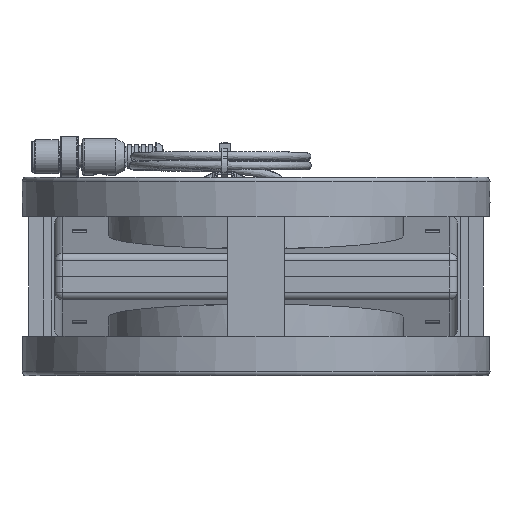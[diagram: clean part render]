
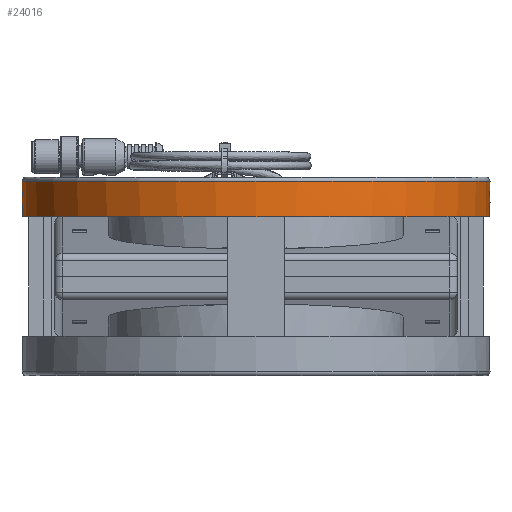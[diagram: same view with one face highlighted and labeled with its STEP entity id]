
A CAD part, front view. The second image highlights one B-rep face of the part: STEP entity #24016.
In plain terms, the highlighted cylindrical face has radius 82.4 mm (diameter 164.8 mm), a full revolution.
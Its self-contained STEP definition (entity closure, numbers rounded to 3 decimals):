
#5095=CIRCLE('',#53261,82.4);
#5096=CIRCLE('',#53262,82.4);
#5097=CIRCLE('',#53263,82.4);
#5098=CIRCLE('',#53265,82.4);
#24016=ADVANCED_FACE('',(#26689,#26690,#26691,#26692),#25983,.T.);
#25983=CYLINDRICAL_SURFACE('',#53268,82.4);
#26689=FACE_BOUND('',#27901,.T.);
#26690=FACE_BOUND('',#27902,.T.);
#26691=FACE_BOUND('',#27903,.T.);
#26692=FACE_BOUND('',#27904,.T.);
#27901=EDGE_LOOP('',(#33142,#33143,#33144));
#27902=EDGE_LOOP('',(#33145));
#27903=EDGE_LOOP('',(#33146,#33147));
#27904=EDGE_LOOP('',(#33148,#33149,#33150));
#33142=ORIENTED_EDGE('',*,*,#47888,.T.);
#33143=ORIENTED_EDGE('',*,*,#47889,.T.);
#33144=ORIENTED_EDGE('',*,*,#47890,.T.);
#33145=ORIENTED_EDGE('',*,*,#47891,.T.);
#33146=ORIENTED_EDGE('',*,*,#47892,.F.);
#33147=ORIENTED_EDGE('',*,*,#47893,.T.);
#33148=ORIENTED_EDGE('',*,*,#47894,.T.);
#33149=ORIENTED_EDGE('',*,*,#47895,.T.);
#33150=ORIENTED_EDGE('',*,*,#47896,.T.);
#43384=VERTEX_POINT('',#71747);
#43385=VERTEX_POINT('',#71748);
#43386=VERTEX_POINT('',#71750);
#43387=VERTEX_POINT('',#71753);
#43388=VERTEX_POINT('',#71755);
#43389=VERTEX_POINT('',#71756);
#43390=VERTEX_POINT('',#71759);
#43391=VERTEX_POINT('',#71760);
#43392=VERTEX_POINT('',#71762);
#47888=EDGE_CURVE('',#43384,#43385,#52515,.T.);
#47889=EDGE_CURVE('',#43385,#43386,#52516,.T.);
#47890=EDGE_CURVE('',#43386,#43384,#5095,.T.);
#47891=EDGE_CURVE('',#43387,#43387,#5096,.T.);
#47892=EDGE_CURVE('',#43388,#43389,#5097,.T.);
#47893=EDGE_CURVE('',#43388,#43389,#52517,.T.);
#47894=EDGE_CURVE('',#43390,#43391,#5098,.T.);
#47895=EDGE_CURVE('',#43391,#43392,#52518,.T.);
#47896=EDGE_CURVE('',#43392,#43390,#52519,.T.);
#52515=ELLIPSE('',#53259,164.8,82.4);
#52516=ELLIPSE('',#53260,164.8,82.4);
#52517=ELLIPSE('',#53264,82.715,82.4);
#52518=ELLIPSE('',#53266,164.8,82.4);
#52519=ELLIPSE('',#53267,164.8,82.4);
#53259=AXIS2_PLACEMENT_3D('',#71746,#59210,#59211);
#53260=AXIS2_PLACEMENT_3D('',#71749,#59212,#59213);
#53261=AXIS2_PLACEMENT_3D('',#71751,#59214,#59215);
#53262=AXIS2_PLACEMENT_3D('',#71752,#59216,#59217);
#53263=AXIS2_PLACEMENT_3D('',#71754,#59218,#59219);
#53264=AXIS2_PLACEMENT_3D('',#71757,#59220,#59221);
#53265=AXIS2_PLACEMENT_3D('',#71758,#59222,#59223);
#53266=AXIS2_PLACEMENT_3D('',#71761,#59224,#59225);
#53267=AXIS2_PLACEMENT_3D('',#71763,#59226,#59227);
#53268=AXIS2_PLACEMENT_3D('',#71764,#59228,#59229);
#59210=DIRECTION('',(0.5,0.866,0.));
#59211=DIRECTION('',(0.866,-0.5,0.));
#59212=DIRECTION('',(0.5,-0.866,0.));
#59213=DIRECTION('',(0.866,0.5,0.));
#59214=DIRECTION('',(-1.,0.,0.));
#59215=DIRECTION('',(0.,0.,-1.));
#59216=DIRECTION('',(1.,0.,0.));
#59217=DIRECTION('',(0.,1.,0.));
#59218=DIRECTION('',(1.,0.,0.));
#59219=DIRECTION('',(0.,1.,0.));
#59220=DIRECTION('',(-0.996,-0.087,0.));
#59221=DIRECTION('',(0.087,-0.996,0.));
#59222=DIRECTION('',(-1.,0.,0.));
#59223=DIRECTION('',(0.,0.,-1.));
#59224=DIRECTION('',(0.5,-0.866,0.));
#59225=DIRECTION('',(0.866,0.5,0.));
#59226=DIRECTION('',(0.5,0.866,0.));
#59227=DIRECTION('',(0.866,-0.5,0.));
#59228=DIRECTION('',(1.,0.,0.));
#59229=DIRECTION('',(0.,1.,0.));
#71746=CARTESIAN_POINT('',(-26.,0.,0.));
#71747=CARTESIAN_POINT('',(-30.,2.309,82.368));
#71748=CARTESIAN_POINT('',(-26.,0.,82.4));
#71749=CARTESIAN_POINT('',(-26.,0.,0.));
#71750=CARTESIAN_POINT('',(-30.,-2.309,82.368));
#71751=CARTESIAN_POINT('',(-30.,0.,0.));
#71752=CARTESIAN_POINT('',(-33.5,0.,0.));
#71753=CARTESIAN_POINT('',(-33.5,82.4,0.));
#71754=CARTESIAN_POINT('',(-21.,0.,0.));
#71755=CARTESIAN_POINT('',(-21.,76.47,30.692));
#71756=CARTESIAN_POINT('',(-21.,76.47,-30.692));
#71757=CARTESIAN_POINT('',(-14.31,0.,0.));
#71758=CARTESIAN_POINT('',(-30.,0.,0.));
#71759=CARTESIAN_POINT('',(-30.,2.309,-82.368));
#71760=CARTESIAN_POINT('',(-30.,-2.309,-82.368));
#71761=CARTESIAN_POINT('',(-26.,0.,0.));
#71762=CARTESIAN_POINT('',(-26.,0.,-82.4));
#71763=CARTESIAN_POINT('',(-26.,0.,0.));
#71764=CARTESIAN_POINT('',(-13.6,0.,0.));
